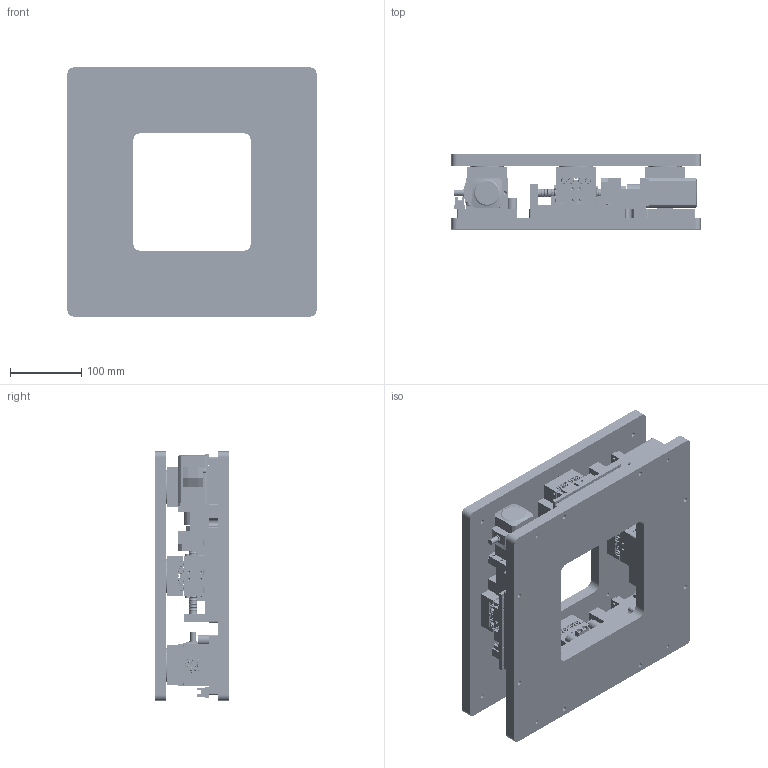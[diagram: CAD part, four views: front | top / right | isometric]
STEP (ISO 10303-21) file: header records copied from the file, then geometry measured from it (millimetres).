
FILE_DESCRIPTION (( 'STEP AP214' ), '1' );
FILE_NAME ('XXY350A-PM42.STEP', '2025-01-03T07:46:29', ( '' ), ( '' ), 'SwSTEP 2.0', 'SolidWorks 2020', '' );
FILE_SCHEMA (( 'AUTOMOTIVE_DESIGN' ));
Length unit declared in the file: millimetre
Products named in the file (1): XXY350A-PM42
Bounding box: 350 x 105 x 350 mm (x, y, z)
Surface area: 907232.7 mm2 (no closed solid volume)
Topology: 0 solids, 102 shells, 8140 faces, 21060 edges, 12942 vertices
Faces by surface type: plane 3229, cylinder 2905, cone 1230, bspline 776
Entity records: 263202 total; most frequent: CARTESIAN_POINT 65343, DIRECTION 42523, ORIENTED_EDGE 39958, EDGE_CURVE 20232, AXIS2_PLACEMENT_3D 15697, VERTEX_POINT 12942, LINE 11129, VECTOR 11129
